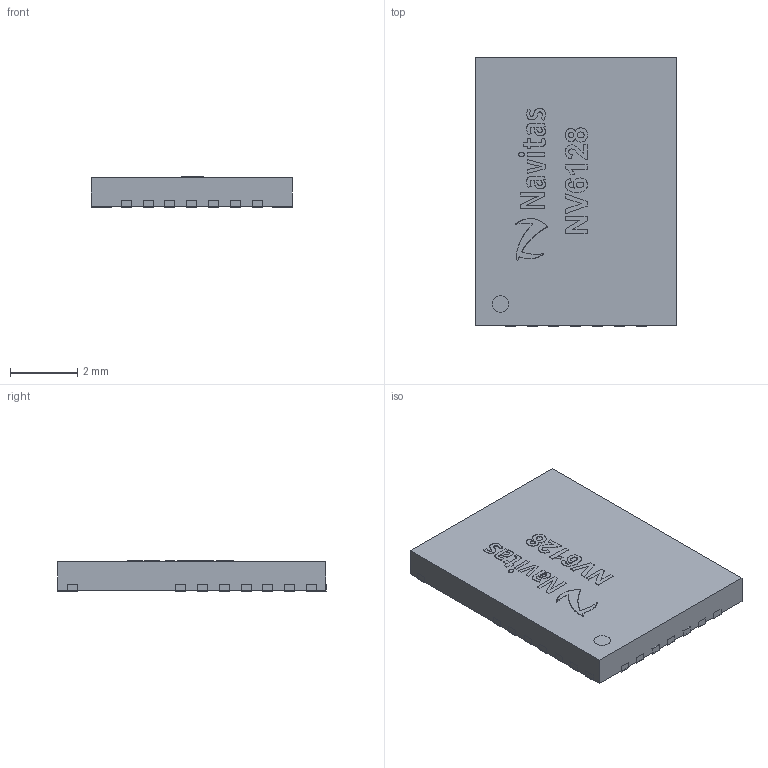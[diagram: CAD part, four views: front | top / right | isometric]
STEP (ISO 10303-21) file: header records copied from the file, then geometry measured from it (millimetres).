
FILE_DESCRIPTION(/* description */ (''),/* implementation_level */ '2;1');
FILE_NAME(/* name */ 'C:/Users/Tom/Documents/NV6128.stp',/* time_stamp */ '2020-03-02T11:01:12-08:00',/* author */ (''),/* organization */ (''),/* preprocessor_version */ 'ST-DEVELOPER v15.2',/* originating_system */ 'Autodesk Translator Framework v2.0.0.5431',/* authorisation */ '');
FILE_SCHEMA (('AUTOMOTIVE_DESIGN { 1 0 10303 214 3 1 1 }'));
Length unit declared in the file: centimetre
Products named in the file (1): NV6128
Bounding box: 6.02 x 8.02 x 0.9 mm (x, y, z)
Surface area: 191.8 mm2
Topology: 48 solids, 48 shells, 827 faces, 2193 edges, 1462 vertices
Faces by surface type: bspline 525, plane 301, cylinder 1
Full cylindrical faces by diameter (mm): 0.5 x1
Entity records: 30271 total; most frequent: CARTESIAN_POINT 14127, ORIENTED_EDGE 4384, EDGE_CURVE 2192, DIRECTION 1750, VERTEX_POINT 1462, LINE 1140, VECTOR 1140, EDGE_LOOP 838
